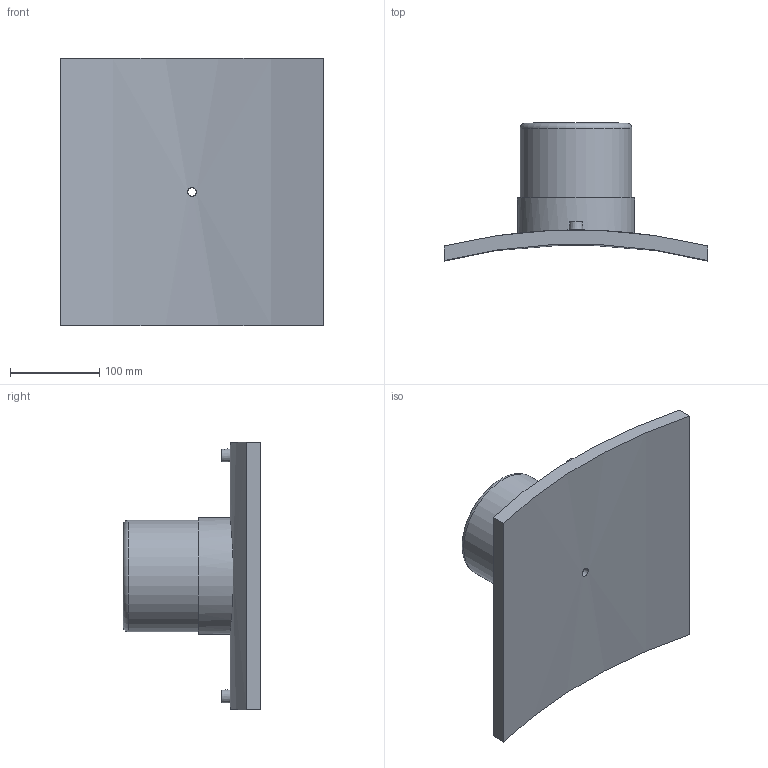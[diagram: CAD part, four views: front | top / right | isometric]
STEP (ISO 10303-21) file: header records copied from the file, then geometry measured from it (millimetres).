
FILE_DESCRIPTION(/* description */ ('PLASSON BRANCH SADDLE 1200x125'),/* implementation_level */ '2;1');
FILE_NAME(/* name */ 'C:\Dropbox\99-16-3568-Processing\ElectroFusion Fittings\495803\4958031200125T.ipt.stp',/* time_stamp */ '2021-02-25T09:43:32+02:00',/* author */ ('KIM'),/* organization */ (''),/* preprocessor_version */ 'ST-DEVELOPER v17.2',/* originating_system */ 'Autodesk Inventor 2019',/* authorisation */ '');
FILE_SCHEMA (('AUTOMOTIVE_DESIGN { 1 0 10303 214 3 1 1 }'));
Length unit declared in the file: millimetre
Products named in the file (1): 4958031200125T
Bounding box: 295 x 154.41 x 300 mm (x, y, z)
Volume: 2016061.6 mm3; surface area: 290097.6 mm2
Topology: 1 solids, 1 shells, 29 faces, 60 edges, 43 vertices
Faces by surface type: plane 13, cylinder 12, torus 2, cone 2
Full cylindrical faces by diameter (mm): 4 x2, 9.6 x1, 10 x2, 16 x1, 100 x1, 125 x1, 131.25 x1
Entity records: 1086 total; most frequent: CARTESIAN_POINT 400, DIRECTION 139, ORIENTED_EDGE 120, EDGE_CURVE 60, AXIS2_PLACEMENT_3D 60, VERTEX_POINT 43, EDGE_LOOP 41, CIRCLE 30
